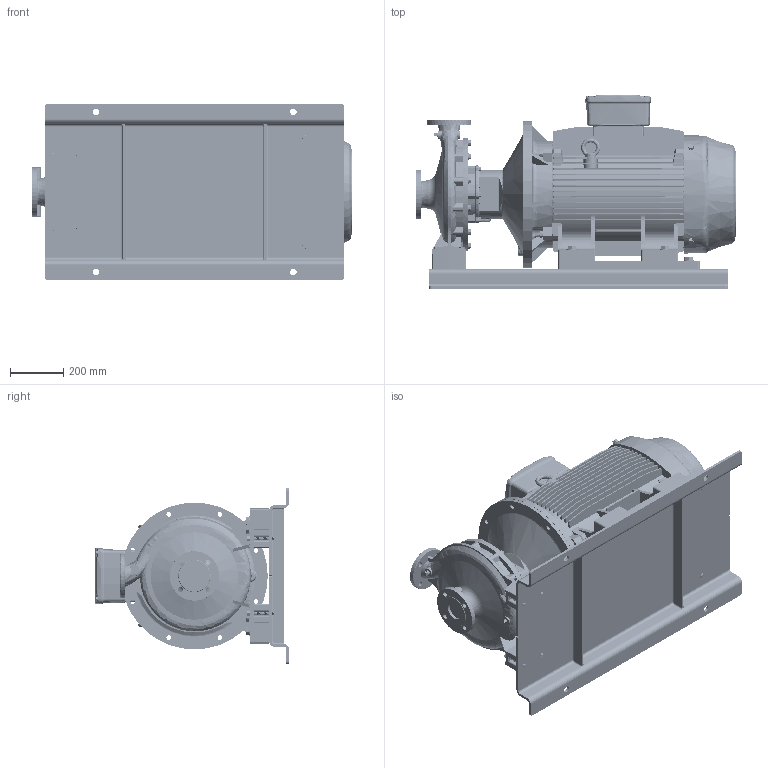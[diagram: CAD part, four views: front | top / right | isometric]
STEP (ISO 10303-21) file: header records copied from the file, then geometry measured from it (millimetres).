
FILE_DESCRIPTION (( 'STEP AP214' ), '1' );
FILE_NAME ('GSD2 50-315_55 & 75_(250SM)_W21_BP.STEP', '2024-05-17T01:58:12', ( '' ), ( '' ), 'SwSTEP 2.0', 'SolidWorks 2019', '' );
FILE_SCHEMA (( 'AUTOMOTIVE_DESIGN' ));
Length unit declared in the file: millimetre
Products named in the file (17): CGS11-5311_2_3_4_5_CGS11-5312; 100x30 - CGSDA-5291; Parametric bolt and washer_SFT-A417B; 50-315-250S_M_______; Parametric Nut_M12; N8S3 GSDA-834 F1-1832958-00; Parametric Flat Washer_M20; Parametric bolt_SFT-A417B; Parametric Stud Bolt_SFSK-AB305; CGS11-5311_2_3_4_5_CGS11-5314; A407B Bolt_407; 250S_M2P IE3_W21T_B35; GSD2  50-315_55 & 75_(250SM)_W21_BP; Parametric Flat Washer_M12
Assembly tree (37 placements, depth 3):
  GSD2  50-315_55 & 75_(250SM)_W21_BP
    50-315-250S_M_______
    250S_M2P IE3_W21T_B35
    CGS11-5311_2_3_4_5_CGS11-5312  x2
    CGS11-5311_2_3_4_5_CGS11-5314  x2
    N8S3 GSDA-834 F1-1832958-00
    100x30 - CGSDA-5291  x2
    Parametric Stud Bolt_SFSK-AB305  x4
    Parametric Flat Washer_M12  x4
    Parametric Nut_M12  x4
    A407B Bolt_407  x2
    Parametric Flat Washer_M20  x2
    Parametric bolt and washer_SFT-A417B
      Parametric bolt_SFT-A417B
      Parametric Flat Washer_M20
    Parametric bolt and washer_SFT-A417B
      Parametric bolt_SFT-A417B
      Parametric Flat Washer_M20
    Parametric bolt and washer_SFT-A417B
      Parametric bolt_SFT-A417B
      Parametric Flat Washer_M20
    Parametric bolt and washer_SFT-A417B
      Parametric bolt_SFT-A417B
      Parametric Flat Washer_M20
Bounding box: 1200.5 x 728 x 660 mm (x, y, z)
Volume: 150646988.5 mm3; surface area: 7382590.2 mm2
Topology: 34 solids, 39 shells, 4793 faces, 12769 edges, 8164 vertices
Faces by surface type: cylinder 1859, plane 1770, cone 539, bspline 308, torus 301, sphere 16
Entity records: 176230 total; most frequent: CARTESIAN_POINT 81892, ORIENTED_EDGE 20800, DIRECTION 18565, EDGE_CURVE 10400, AXIS2_PLACEMENT_3D 6824, VERTEX_POINT 6628, VECTOR 4917, LINE 4917
